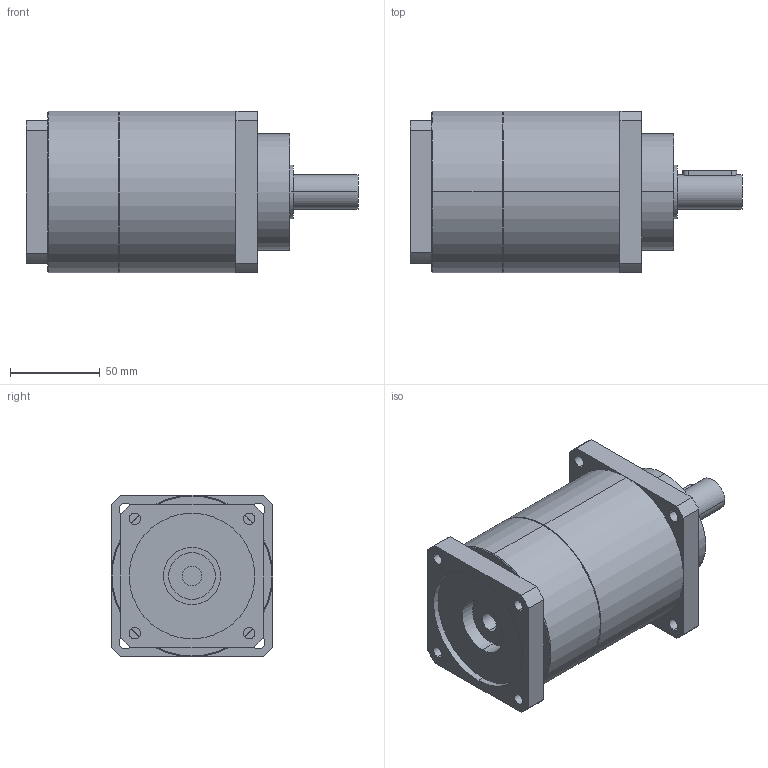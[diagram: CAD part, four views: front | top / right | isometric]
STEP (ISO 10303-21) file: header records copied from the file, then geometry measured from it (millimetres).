
FILE_DESCRIPTION(('CoCreate Modeling STEP Export'),'2;1');
FILE_NAME('GPT90_ig-9-12-16-20-25-28-35-40-50-70-100_19_B5T_11_P12.stp','2015-02-04T11:24:07',(''),(''),'CoCreate Modeling STEP processor for AP214 (Solid Model)','CoCreate Modeling 16.00C 25-Feb-2009 (C) Parametric Technology GmbH','');
FILE_SCHEMA(('AUTOMOTIVE_DESIGN { 1 0 10303 214 1 1 1 1 }'));
Length unit declared in the file: millimetre
Products named in the file (2): GPT90_ig-9-12-16-20-25-28-35-40-50-70-100_19_B5T_11_P12
Assembly tree (1 placements, depth 2):
  GPT90_ig-9-12-16-20-25-28-35-40-50-70-100_19_B5T_11_P12
    GPT90_ig-9-12-16-20-25-28-35-40-50-70-100_19_B5T_11_P12
Bounding box: 185 x 90 x 90 mm (x, y, z)
Volume: 886320.9 mm3; surface area: 66057.7 mm2
Topology: 1 solids, 1 shells, 88 faces, 237 edges, 156 vertices
Faces by surface type: cylinder 46, plane 38, cone 4
Entity records: 2783 total; most frequent: CARTESIAN_POINT 766, ORIENTED_EDGE 474, DIRECTION 338, EDGE_CURVE 237, VERTEX_POINT 156, AXIS2_PLACEMENT_3D 125, EDGE_LOOP 109, VECTOR 88
